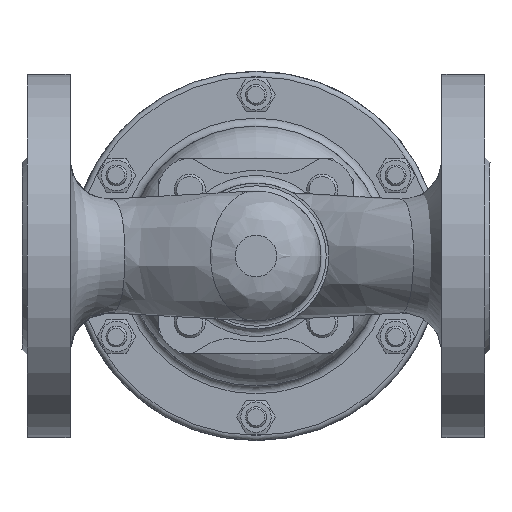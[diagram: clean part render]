
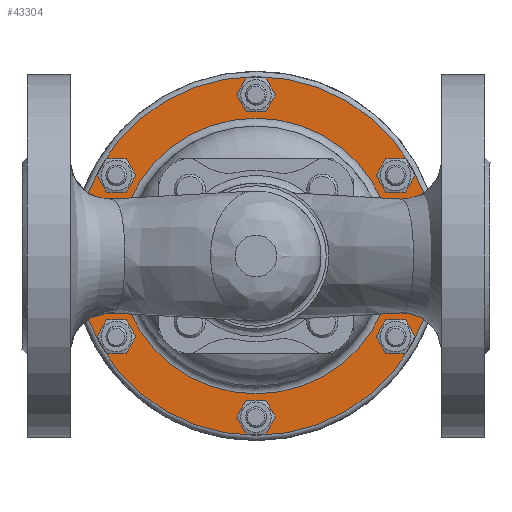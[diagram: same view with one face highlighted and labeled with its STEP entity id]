
A CAD part, front view. The second image highlights one B-rep face of the part: STEP entity #43304.
In plain terms, the highlighted planar face has unit normal (0, -1, 0).
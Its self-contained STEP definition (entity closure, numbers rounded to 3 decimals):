
#43304=ADVANCED_FACE('',(#46310,#46312,#46314,#46316,#46318,#46320,#46322,#46324),
#46326,.T.);
#46310=FACE_BOUND('',#46311,.T.);
#46311=EDGE_LOOP('',(#46755));
#46312=FACE_BOUND('',#46313,.T.);
#46313=EDGE_LOOP('',(#46756,#46757,#46758,#46759,#46760,#46761,#46762,#46763));
#46314=FACE_BOUND('',#46315,.T.);
#46315=EDGE_LOOP('',(#46764));
#46316=FACE_BOUND('',#46317,.T.);
#46317=EDGE_LOOP('',(#46765));
#46318=FACE_BOUND('',#46319,.T.);
#46319=EDGE_LOOP('',(#46766));
#46320=FACE_BOUND('',#46321,.T.);
#46321=EDGE_LOOP('',(#46767));
#46322=FACE_BOUND('',#46323,.T.);
#46323=EDGE_LOOP('',(#46768));
#46324=FACE_OUTER_BOUND('',#46325,.T.);
#46325=EDGE_LOOP('',(#46769));
#46326=PLANE('',#46327);
#46327=AXIS2_PLACEMENT_3D('',#46328,#46329,#46330);
#46328=CARTESIAN_POINT('',(0.,154.,0.));
#46329=DIRECTION('',(0.,-1.,0.));
#46330=DIRECTION('',(-1.,0.,0.));
#46755=ORIENTED_EDGE('',*,*,#46789,.F.);
#46756=ORIENTED_EDGE('',*,*,#46989,.T.);
#46757=ORIENTED_EDGE('',*,*,#46987,.F.);
#46758=ORIENTED_EDGE('',*,*,#46985,.F.);
#46759=ORIENTED_EDGE('',*,*,#46983,.F.);
#46760=ORIENTED_EDGE('',*,*,#46979,.T.);
#46761=ORIENTED_EDGE('',*,*,#46977,.F.);
#46762=ORIENTED_EDGE('',*,*,#46975,.F.);
#46763=ORIENTED_EDGE('',*,*,#46992,.F.);
#46764=ORIENTED_EDGE('',*,*,#46804,.F.);
#46765=ORIENTED_EDGE('',*,*,#46801,.F.);
#46766=ORIENTED_EDGE('',*,*,#46799,.F.);
#46767=ORIENTED_EDGE('',*,*,#46795,.F.);
#46768=ORIENTED_EDGE('',*,*,#46792,.F.);
#46769=ORIENTED_EDGE('',*,*,#46993,.F.);
#46789=EDGE_CURVE('',#46999,#46999,#47002,.T.);
#46792=EDGE_CURVE('',#47004,#47004,#47007,.T.);
#46795=EDGE_CURVE('',#47009,#47009,#47012,.T.);
#46799=EDGE_CURVE('',#47014,#47014,#47018,.T.);
#46801=EDGE_CURVE('',#47019,#47019,#47022,.T.);
#46804=EDGE_CURVE('',#47024,#47024,#47027,.T.);
#46975=EDGE_CURVE('',#47299,#47297,#47301,.T.);
#46977=EDGE_CURVE('',#47297,#47302,#47304,.T.);
#46979=EDGE_CURVE('',#47306,#47302,#47307,.T.);
#46983=EDGE_CURVE('',#47306,#47310,#47312,.T.);
#46985=EDGE_CURVE('',#47310,#47313,#47315,.T.);
#46987=EDGE_CURVE('',#47313,#47316,#47318,.T.);
#46989=EDGE_CURVE('',#47320,#47316,#47321,.T.);
#46992=EDGE_CURVE('',#47320,#47299,#47324,.T.);
#46993=EDGE_CURVE('',#47325,#47325,#47326,.T.);
#46999=VERTEX_POINT('',#47335);
#47002=CIRCLE('',#47340,4.5);
#47004=VERTEX_POINT('',#47348);
#47007=CIRCLE('',#47353,4.5);
#47009=VERTEX_POINT('',#47361);
#47012=CIRCLE('',#47366,4.5);
#47014=VERTEX_POINT('',#47374);
#47018=CIRCLE('',#47383,4.5);
#47019=VERTEX_POINT('',#47387);
#47022=CIRCLE('',#47392,4.5);
#47024=VERTEX_POINT('',#47400);
#47027=CIRCLE('',#47405,4.5);
#47297=VERTEX_POINT('',#50341);
#47299=VERTEX_POINT('',#50346);
#47301=CIRCLE('',#50351,3.5);
#47302=VERTEX_POINT('',#50355);
#47304=LINE('',#50360,#50361);
#47306=VERTEX_POINT('',#50378);
#47307=CIRCLE('',#50379,53.);
#47310=VERTEX_POINT('',#50403);
#47312=LINE('',#50408,#50409);
#47313=VERTEX_POINT('',#50411);
#47315=CIRCLE('',#50416,3.5);
#47316=VERTEX_POINT('',#50420);
#47318=LINE('',#50425,#50426);
#47320=VERTEX_POINT('',#50443);
#47321=CIRCLE('',#50444,53.);
#47324=LINE('',#50468,#50469);
#47325=VERTEX_POINT('',#50471);
#47326=CIRCLE('',#50472,69.);
#47335=CARTESIAN_POINT('',(-49.796,154.,33.25));
#47340=AXIS2_PLACEMENT_3D('',#47341,#47342,#47343);
#47341=CARTESIAN_POINT('',(-53.694,154.,31.));
#47342=DIRECTION('',(0.,-1.,0.));
#47343=DIRECTION('',(-0.866,0.,-0.5));
#47348=CARTESIAN_POINT('',(3.897,154.,59.75));
#47353=AXIS2_PLACEMENT_3D('',#47354,#47355,#47356);
#47354=CARTESIAN_POINT('',(0.,154.,62.));
#47355=DIRECTION('',(0.,-1.,0.));
#47356=DIRECTION('',(-0.866,0.,0.5));
#47361=CARTESIAN_POINT('',(53.694,154.,26.5));
#47366=AXIS2_PLACEMENT_3D('',#47367,#47368,#47369);
#47367=CARTESIAN_POINT('',(53.694,154.,31.));
#47368=DIRECTION('',(0.,-1.,0.));
#47369=DIRECTION('',(0.,0.,1.));
#47374=CARTESIAN_POINT('',(57.591,154.,-28.75));
#47383=AXIS2_PLACEMENT_3D('',#47384,#47385,#47386);
#47384=CARTESIAN_POINT('',(53.694,154.,-31.));
#47385=DIRECTION('',(0.,-1.,0.));
#47386=DIRECTION('',(-0.866,0.,-0.5));
#47387=CARTESIAN_POINT('',(-3.897,154.,-59.75));
#47392=AXIS2_PLACEMENT_3D('',#47393,#47394,#47395);
#47393=CARTESIAN_POINT('',(0.,154.,-62.));
#47394=DIRECTION('',(0.,-1.,0.));
#47395=DIRECTION('',(0.866,-0.,-0.5));
#47400=CARTESIAN_POINT('',(-53.694,154.,-26.5));
#47405=AXIS2_PLACEMENT_3D('',#47406,#47407,#47408);
#47406=CARTESIAN_POINT('',(-53.694,154.,-31.));
#47407=DIRECTION('',(0.,-1.,0.));
#47408=DIRECTION('',(-0.,0.,-1.));
#50341=CARTESIAN_POINT('',(59.5,154.,3.5));
#50346=CARTESIAN_POINT('',(59.5,154.,-3.5));
#50351=AXIS2_PLACEMENT_3D('',#50352,#50353,#50354);
#50352=CARTESIAN_POINT('',(59.5,154.,0.));
#50353=DIRECTION('',(-0.,-1.,0.));
#50354=DIRECTION('',(0.,0.,-1.));
#50355=CARTESIAN_POINT('',(52.884,154.,3.5));
#50360=CARTESIAN_POINT('',(59.5,154.,3.5));
#50361=VECTOR('',#50362,1.);
#50362=DIRECTION('',(-1.,0.,0.));
#50378=CARTESIAN_POINT('',(-52.884,154.,3.5));
#50379=AXIS2_PLACEMENT_3D('',#50380,#50381,#50382);
#50380=CARTESIAN_POINT('',(0.,154.,0.));
#50381=DIRECTION('',(0.,1.,-0.));
#50382=DIRECTION('',(-0.998,0.,0.066));
#50403=CARTESIAN_POINT('',(-59.5,154.,3.5));
#50408=CARTESIAN_POINT('',(-52.884,154.,3.5));
#50409=VECTOR('',#50410,1.);
#50410=DIRECTION('',(-1.,0.,0.));
#50411=CARTESIAN_POINT('',(-59.5,154.,-3.5));
#50416=AXIS2_PLACEMENT_3D('',#50417,#50418,#50419);
#50417=CARTESIAN_POINT('',(-59.5,154.,0.));
#50418=DIRECTION('',(0.,-1.,0.));
#50419=DIRECTION('',(0.,0.,1.));
#50420=CARTESIAN_POINT('',(-52.884,154.,-3.5));
#50425=CARTESIAN_POINT('',(-59.5,154.,-3.5));
#50426=VECTOR('',#50427,1.);
#50427=DIRECTION('',(1.,0.,0.));
#50443=CARTESIAN_POINT('',(52.884,154.,-3.5));
#50444=AXIS2_PLACEMENT_3D('',#50445,#50446,#50447);
#50445=CARTESIAN_POINT('',(0.,154.,0.));
#50446=DIRECTION('',(0.,1.,0.));
#50447=DIRECTION('',(0.998,0.,-0.066));
#50468=CARTESIAN_POINT('',(52.884,154.,-3.5));
#50469=VECTOR('',#50470,1.);
#50470=DIRECTION('',(1.,0.,0.));
#50471=CARTESIAN_POINT('',(69.,154.,0.));
#50472=AXIS2_PLACEMENT_3D('',#50473,#50474,#50475);
#50473=CARTESIAN_POINT('',(0.,154.,0.));
#50474=DIRECTION('',(-0.,1.,-0.));
#50475=DIRECTION('',(1.,0.,0.));
